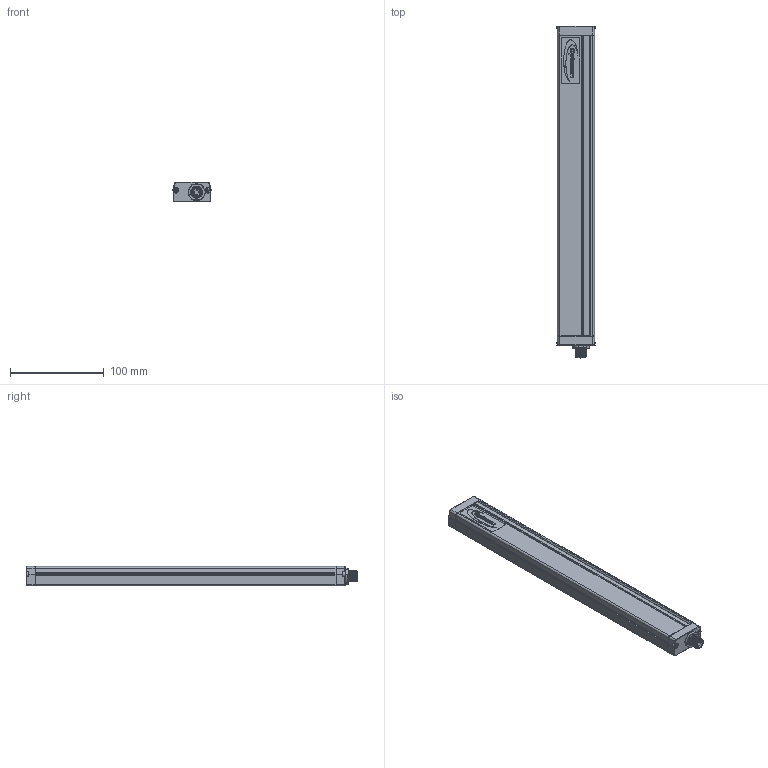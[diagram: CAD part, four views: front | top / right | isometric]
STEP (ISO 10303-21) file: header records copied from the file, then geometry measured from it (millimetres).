
FILE_DESCRIPTION(/* description */ (''),/* implementation_level */ '2;1');
FILE_NAME(/* name */ 'C:\Users\andre\SynologyDrive\Optoscan\Libreria Componenti\00 - Barriere\Barriera sorgente\Argo_320_RX.stp',/* time_stamp */ '2021-04-22T11:52:51+02:00',/* author */ ('andre'),/* organization */ (''),/* preprocessor_version */ 'ST-DEVELOPER v18',/* originating_system */ 'Autodesk Inventor 2020',/* authorisation */ '');
FILE_SCHEMA (('AUTOMOTIVE_DESIGN { 1 0 10303 214 3 1 1 }'));
Length unit declared in the file: millimetre
Products named in the file (1): Argo_320_RX
Bounding box: 40.5 x 353.3 x 20.75 mm (x, y, z)
Volume: 73775.6 mm3; surface area: 92601.9 mm2
Topology: 1 solids, 1 shells, 692 faces, 1898 edges, 1217 vertices
Faces by surface type: plane 319, cylinder 195, bspline 94, torus 70, cone 8, sphere 6
Full cylindrical faces by diameter (mm): 1 x4, 2.459 x4, 2.5 x4, 3 x4, 3.5 x4, 5.5 x4, 8 x1, 10.5 x2, 11.75 x9, 15.7 x1, 17.5 x1
Entity records: 28165 total; most frequent: CARTESIAN_POINT 10195, ORIENTED_EDGE 3778, DIRECTION 3387, EDGE_CURVE 1889, VERTEX_POINT 1217, AXIS2_PLACEMENT_3D 1183, LINE 1021, VECTOR 1021
